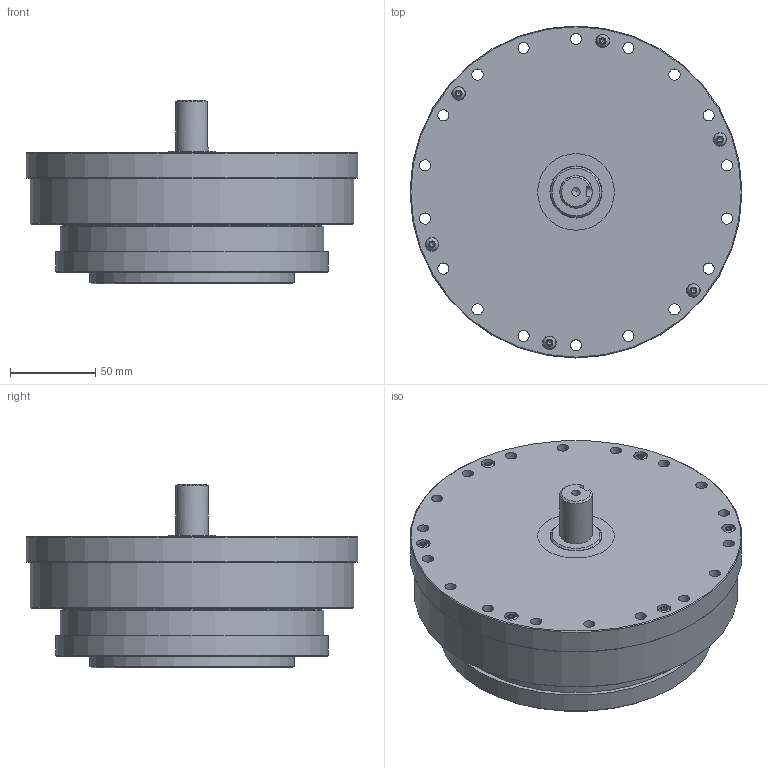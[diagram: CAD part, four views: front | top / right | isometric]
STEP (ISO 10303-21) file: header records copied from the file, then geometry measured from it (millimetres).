
FILE_DESCRIPTION (( 'STEP AP203' ), '1' );
FILE_NAME ('FHG-45-XXX-AJ.STEP', '2025-04-01T10:56:47', ( '微软用户' ), ( '微软中国' ), 'SwSTEP 2.0', 'SolidWorks 2016', '' );
FILE_SCHEMA (( 'CONFIG_CONTROL_DESIGN' ));
Length unit declared in the file: millimetre
Products named in the file (1): FHG-45-XXX-AJ
Bounding box: 195 x 195 x 108 mm (x, y, z)
Volume: 1254813 mm3; surface area: 525240.9 mm2
Topology: 68 solids, 68 shells, 1037 faces, 2483 edges, 1610 vertices
Faces by surface type: plane 367, cylinder 341, cone 145, bspline 74, sphere 65, torus 45
Full cylindrical faces by diameter (mm): 0.505 x1, 0.709 x1, 2 x2, 3 x2, 3.3 x6, 4 x6, 4.2 x4, 4.5 x12, 5 x5, 5.5 x8, 6.6 x54, 6.8 x12, 8 x6, 8.5 x4, 9 x24, 10 x4, 19 x1, 20 x2, 25 x2, 25.133 x2, 26.233 x2, 26.933 x2, 27.333 x4, 28.25 x1, 28.6 x1, 30 x5, 33.75 x1, 34.667 x2, 35.767 x2, 36 x2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
Entity records: 34505 total; most frequent: CARTESIAN_POINT 12915, DIRECTION 4550, ORIENTED_EDGE 3664, AXIS2_PLACEMENT_3D 2059, EDGE_CURVE 1832, EDGE_LOOP 1808, VERTEX_POINT 1428, FACE_OUTER_BOUND 1290
